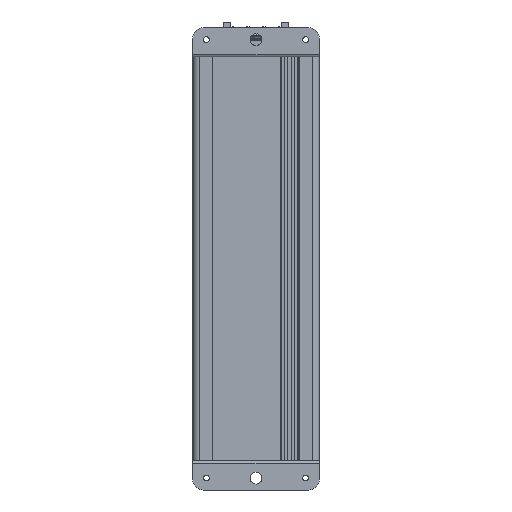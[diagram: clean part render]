
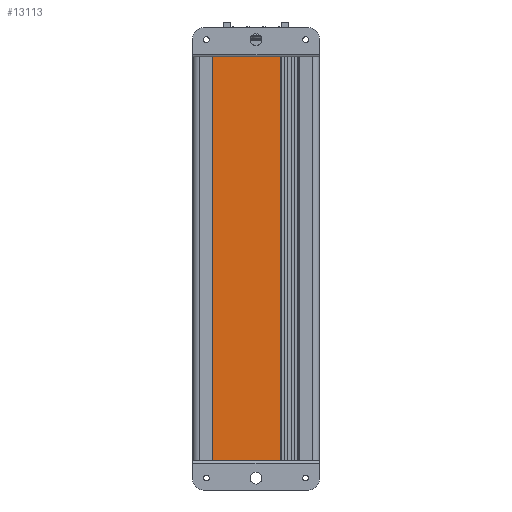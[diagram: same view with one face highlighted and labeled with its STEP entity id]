
A CAD part, front view. The second image highlights one B-rep face of the part: STEP entity #13113.
In plain terms, the highlighted planar face has unit normal (0, -1, 0).
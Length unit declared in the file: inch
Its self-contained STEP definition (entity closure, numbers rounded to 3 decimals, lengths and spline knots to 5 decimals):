
#873=LINE('',#22999,#2019);
#919=LINE('',#23153,#2065);
#1105=LINE('',#23686,#2251);
#1106=LINE('',#23688,#2252);
#2019=VECTOR('',#17090,0.3937);
#2065=VECTOR('',#17208,0.3937);
#2251=VECTOR('',#17728,0.3937);
#2252=VECTOR('',#17731,0.3937);
#3350=FACE_OUTER_BOUND('',#4055,.T.);
#4055=EDGE_LOOP('',(#11320,#11321,#11322,#11323));
#5805=VERTEX_POINT('',#22996);
#5806=VERTEX_POINT('',#22998);
#5877=VERTEX_POINT('',#23150);
#5878=VERTEX_POINT('',#23152);
#7519=EDGE_CURVE('',#5806,#5805,#873,.T.);
#7596=EDGE_CURVE('',#5877,#5878,#919,.T.);
#7869=EDGE_CURVE('',#5805,#5878,#1105,.T.);
#7870=EDGE_CURVE('',#5806,#5877,#1106,.T.);
#11320=ORIENTED_EDGE('',*,*,#7519,.T.);
#11321=ORIENTED_EDGE('',*,*,#7869,.T.);
#11322=ORIENTED_EDGE('',*,*,#7596,.F.);
#11323=ORIENTED_EDGE('',*,*,#7870,.F.);
#12205=PLANE('',#14359);
#13113=ADVANCED_FACE('',(#3350),#12205,.T.);
#14359=AXIS2_PLACEMENT_3D('',#23687,#17729,#17730);
#17090=DIRECTION('',(1.,0.,0.));
#17208=DIRECTION('',(1.,0.,0.));
#17728=DIRECTION('',(0.,0.,1.));
#17729=DIRECTION('center_axis',(0.,-1.,0.));
#17730=DIRECTION('ref_axis',(1.,0.,0.));
#17731=DIRECTION('',(0.,0.,1.));
#22996=CARTESIAN_POINT('',(8.43574,2.65237,0.));
#22998=CARTESIAN_POINT('',(6.40818,2.65237,0.));
#22999=CARTESIAN_POINT('',(6.40818,2.65237,0.));
#23150=CARTESIAN_POINT('',(6.40818,2.65237,12.00787));
#23152=CARTESIAN_POINT('',(8.43574,2.65237,12.00787));
#23153=CARTESIAN_POINT('',(6.40818,2.65237,12.00787));
#23686=CARTESIAN_POINT('',(8.43574,2.65237,0.));
#23687=CARTESIAN_POINT('Origin',(6.40818,2.65237,0.));
#23688=CARTESIAN_POINT('',(6.40818,2.65237,0.));
